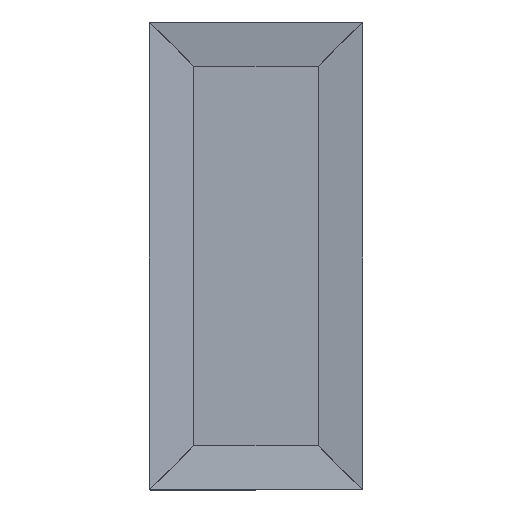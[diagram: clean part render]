
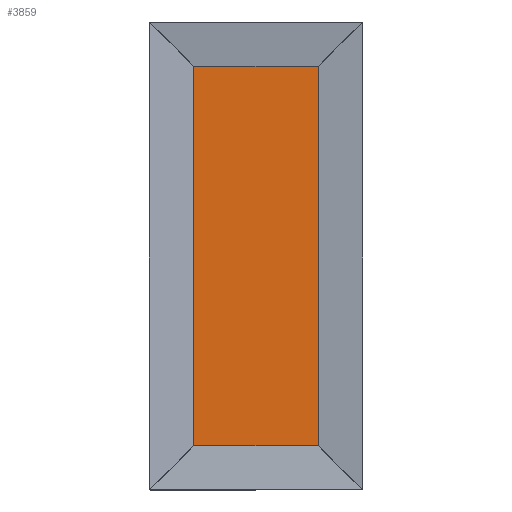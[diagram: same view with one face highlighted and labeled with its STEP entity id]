
A CAD part, top view. The second image highlights one B-rep face of the part: STEP entity #3859.
In plain terms, the highlighted planar face has unit normal (0, 0, 1).
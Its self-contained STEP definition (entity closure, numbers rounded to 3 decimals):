
#3285=CARTESIAN_POINT('',(-294.,-894.,6.601));
#3286=VERTEX_POINT('',#3285);
#3393=CARTESIAN_POINT('',(-294.,894.0,6.601));
#3394=VERTEX_POINT('',#3393);
#3395=CARTESIAN_POINT('',(-294.,-894.,6.601));
#3396=DIRECTION('',(0.0,1.0,0.0));
#3397=VECTOR('',#3396,1788.);
#3398=LINE('',#3395,#3397);
#3399=EDGE_CURVE('',#3286,#3394,#3398,.T.);
#3417=CARTESIAN_POINT('',(294.,-894.0,6.601));
#3418=VERTEX_POINT('',#3417);
#3426=CARTESIAN_POINT('',(294.,-894.0,6.601));
#3427=DIRECTION('',(-1.0,0.0,0.0));
#3428=VECTOR('',#3427,588.0);
#3429=LINE('',#3426,#3428);
#3430=EDGE_CURVE('',#3418,#3286,#3429,.T.);
#3541=CARTESIAN_POINT('',(294.,894.0,6.601));
#3542=VERTEX_POINT('',#3541);
#3550=CARTESIAN_POINT('',(294.,894.0,6.601));
#3551=DIRECTION('',(0.0,-1.0,0.0));
#3552=VECTOR('',#3551,1788.0);
#3553=LINE('',#3550,#3552);
#3554=EDGE_CURVE('',#3542,#3418,#3553,.T.);
#3780=CARTESIAN_POINT('',(-294.,894.0,6.601));
#3781=DIRECTION('',(1.0,0.0,0.0));
#3782=VECTOR('',#3781,588.);
#3783=LINE('',#3780,#3782);
#3784=EDGE_CURVE('',#3394,#3542,#3783,.T.);
#3848=CARTESIAN_POINT('',(0.,0.,6.601));
#3849=DIRECTION('',(0.0,0.0,1.0));
#3850=DIRECTION('',(1.0,0.0,0.0));
#3851=AXIS2_PLACEMENT_3D('',#3848,#3849,#3850);
#3852=PLANE('',#3851);
#3853=ORIENTED_EDGE('',*,*,#3784,.F.);
#3854=ORIENTED_EDGE('',*,*,#3399,.F.);
#3855=ORIENTED_EDGE('',*,*,#3430,.F.);
#3856=ORIENTED_EDGE('',*,*,#3554,.F.);
#3857=EDGE_LOOP('',(#3853,#3854,#3855,#3856));
#3858=FACE_OUTER_BOUND('',#3857,.T.);
#3859=ADVANCED_FACE('',(#3858),#3852,.T.);
